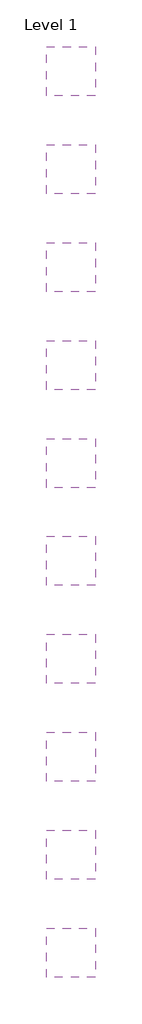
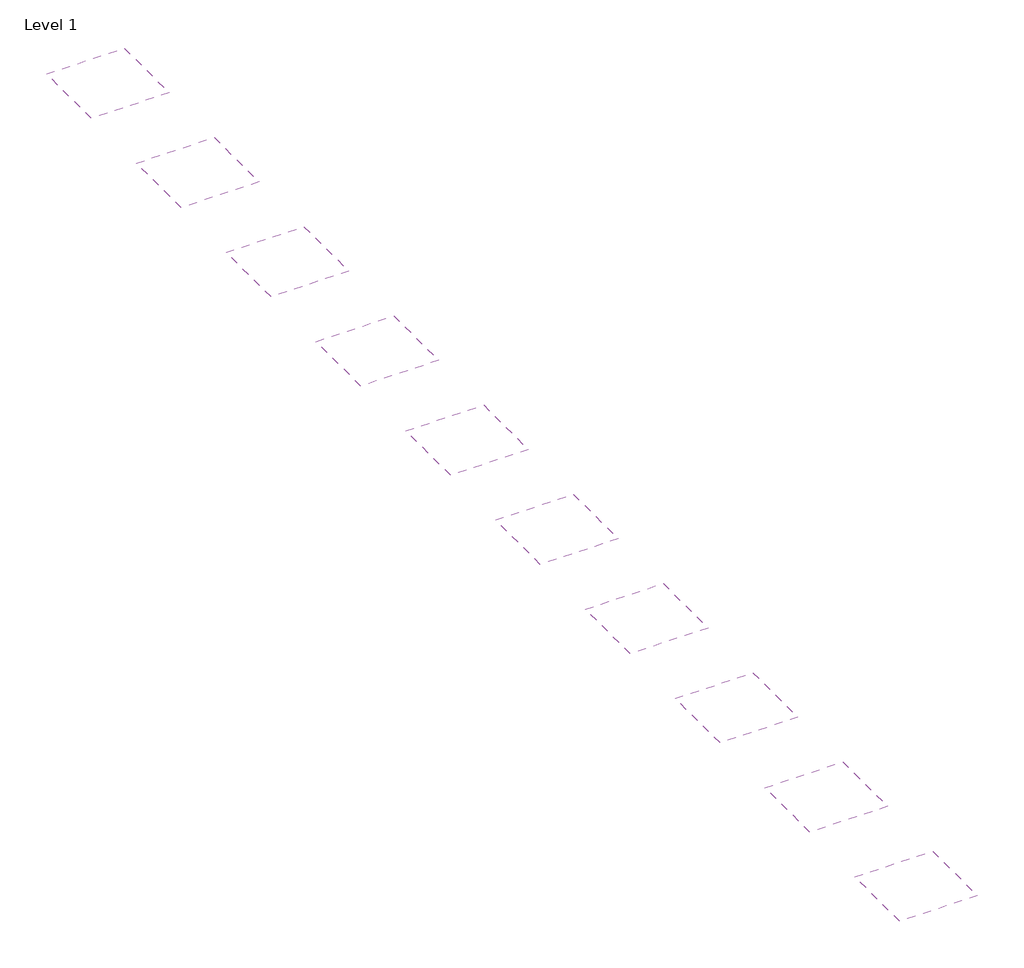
# One storey: 10 coverings.
"""IFC4 building model written with IfcOpenShell, lengths in millimetres."""

from ifc_helpers import new_model, si_unit, frame, origin, place, context, project, spatial, polyline, outline, extrude, element, save

model = new_model("IFC4")

# Units and contexts
model_context = context("Model", 3, world=origin())
ifc_project = project(units=[si_unit("LENGTHUNIT", "METRE", prefix="MILLI")], contexts=[model_context])

# Site, building, storey
site = spatial("IfcSite", under=ifc_project)
building = spatial("IfcBuilding", under=site)
storey = spatial("IfcBuildingStorey", under=building, Name="Level 1", Elevation=0.0)

# Coverings
placement = place(None, origin())
element("IfcCovering", 1, ObjectType="NBS_ArmstrongCeilingsLtd_MetalInfillUnits_LayInAxalVector_Plain_600x600x24mm_GB", at=placement, inside=storey, context=model_context, shape_type="SweptSolid", body=[
    extrude(outline(polyline([(2400.0, 47600.0), (2400.0, 45100.0), (-100.0, 45100.0), (-100.0, 47600.0), (2400.0, 47600.0)])), frame((0.0, 0.0, 2600.0), z_axis=(0.0, 0.0, 1.0), x_axis=(1.0, 0.0, 0.0)), (0.0, 0.0, 1.0), 53.0),
])
element("IfcCovering", 2, ObjectType="NBS_ArmstrongCeilingsLtd_UnitModularSuspendedCeilingSystem_LayInAxalVectorRd1522-AcousticFleece-Prelude24Exposed_600x600x24mm_GB", at=placement, inside=storey, context=model_context, shape_type="SweptSolid", body=[
    extrude(outline(polyline([(2400.0, 42600.0), (2400.0, 40100.0), (-100.0, 40100.0), (-100.0, 42600.0), (2400.0, 42600.0)])), frame((0.0, 0.0, 2600.0), z_axis=(0.0, 0.0, 1.0), x_axis=(1.0, 0.0, 0.0)), (0.0, 0.0, 1.0), 53.0),
])
element("IfcCovering", 3, ObjectType="NBS_ArmstrongCeilingsLtd_UnitModularSuspendedCeilingSystem_LayInAxalVectorRd1522-B15-Prelude24Exposed_600x600x24mm_GB", at=placement, inside=storey, context=model_context, shape_type="SweptSolid", body=[
    extrude(outline(polyline([(2400.0, 37600.0), (2400.0, 35100.0), (-100.0, 35100.0), (-100.0, 37600.0), (2400.0, 37600.0)])), frame((0.0, 0.0, 2600.0), z_axis=(0.0, 0.0, 1.0), x_axis=(1.0, 0.0, 0.0)), (0.0, 0.0, 1.0), 53.0),
])
element("IfcCovering", 4, ObjectType="NBS_ArmstrongCeilingsLtd_UnitModularSuspendedCeilingSystem_LayInAxalVectorRd1522-OP19-Prelude24Exposed_600x600x24mm_GB", at=placement, inside=storey, context=model_context, shape_type="SweptSolid", body=[
    extrude(outline(polyline([(2400.0, 32600.0), (2400.0, 30100.0), (-100.0, 30100.0), (-100.0, 32600.0), (2400.0, 32600.0)])), frame((0.0, 0.0, 2600.0), z_axis=(0.0, 0.0, 1.0), x_axis=(1.0, 0.0, 0.0)), (0.0, 0.0, 1.0), 53.0),
])
element("IfcCovering", 5, ObjectType="NBS_ArmstrongCeilingsLtd_UnitModularSuspendedCeilingSystem_LayInAxalVectorRg0701-AcousticFleece-Prelude24Exposed_600x600x24mm_GB", at=placement, inside=storey, context=model_context, shape_type="SweptSolid", body=[
    extrude(outline(polyline([(2400.0, 27600.0), (2400.0, 25100.0), (-100.0, 25100.0), (-100.0, 27600.0), (2400.0, 27600.0)])), frame((0.0, 0.0, 2600.0), z_axis=(0.0, 0.0, 1.0), x_axis=(1.0, 0.0, 0.0)), (0.0, 0.0, 1.0), 53.0),
])
element("IfcCovering", 6, ObjectType="NBS_ArmstrongCeilingsLtd_UnitModularSuspendedCeilingSystem_LayInAxalVectorRg0701-B15-Prelude24Exposed_600x600x24mm_GB", at=placement, inside=storey, context=model_context, shape_type="SweptSolid", body=[
    extrude(outline(polyline([(2400.0, 22600.0), (2400.0, 20100.0), (-100.0, 20100.0), (-100.0, 22600.0), (2400.0, 22600.0)])), frame((0.0, 0.0, 2600.0), z_axis=(0.0, 0.0, 1.0), x_axis=(1.0, 0.0, 0.0)), (0.0, 0.0, 1.0), 53.0),
])
element("IfcCovering", 7, ObjectType="NBS_ArmstrongCeilingsLtd_UnitModularSuspendedCeilingSystem_LayInAxalVectorRg0701-OP19-Prelude24Exposed_600x600x24mm_GB", at=placement, inside=storey, context=model_context, shape_type="SweptSolid", body=[
    extrude(outline(polyline([(2400.0, 17600.0), (2400.0, 15100.0), (-100.0, 15100.0), (-100.0, 17600.0), (2400.0, 17600.0)])), frame((0.0, 0.0, 2600.0), z_axis=(0.0, 0.0, 1.0), x_axis=(1.0, 0.0, 0.0)), (0.0, 0.0, 1.0), 53.0),
])
element("IfcCovering", 8, ObjectType="NBS_ArmstrongCeilingsLtd_UnitModularSuspendedCeilingSystem_LayInAxalVectorRg2516-AcousticFleece-Prelude24Exposed_600x600x24mm_GB", at=placement, inside=storey, context=model_context, shape_type="SweptSolid", body=[
    extrude(outline(polyline([(2400.0, 12600.0), (2400.0, 10100.0), (-100.0, 10100.0), (-100.0, 12600.0), (2400.0, 12600.0)])), frame((0.0, 0.0, 2600.0), z_axis=(0.0, 0.0, 1.0), x_axis=(1.0, 0.0, 0.0)), (0.0, 0.0, 1.0), 53.0),
])
element("IfcCovering", 9, ObjectType="NBS_ArmstrongCeilingsLtd_UnitModularSuspendedCeilingSystem_LayInAxalVector-Rg2516-B15-Prelude24Exposed_600x600x24mm_GB", at=placement, inside=storey, context=model_context, shape_type="SweptSolid", body=[
    extrude(outline(polyline([(2400.0, 7600.0), (2400.0, 5100.0), (-100.0, 5100.0), (-100.0, 7600.0), (2400.0, 7600.0)])), frame((0.0, 0.0, 2600.0), z_axis=(0.0, 0.0, 1.0), x_axis=(1.0, 0.0, 0.0)), (0.0, 0.0, 1.0), 53.0),
])
element("IfcCovering", 10, ObjectType="NBS_ArmstrongCeilingsLtd_UnitModularSuspendedCeilingSystem_LayInAxalVectorRg2516-OP19-Prelude24Exposed_600x600x24mm_GB", at=placement, inside=storey, context=model_context, shape_type="SweptSolid", body=[
    extrude(outline(polyline([(2400.0, 2600.0), (2400.0, 100.0), (-100.0, 100.0), (-100.0, 2600.0), (2400.0, 2600.0)])), frame((0.0, 0.0, 2600.0), z_axis=(0.0, 0.0, 1.0), x_axis=(1.0, 0.0, 0.0)), (0.0, 0.0, 1.0), 53.0),
])

save(model, "model.ifc")
